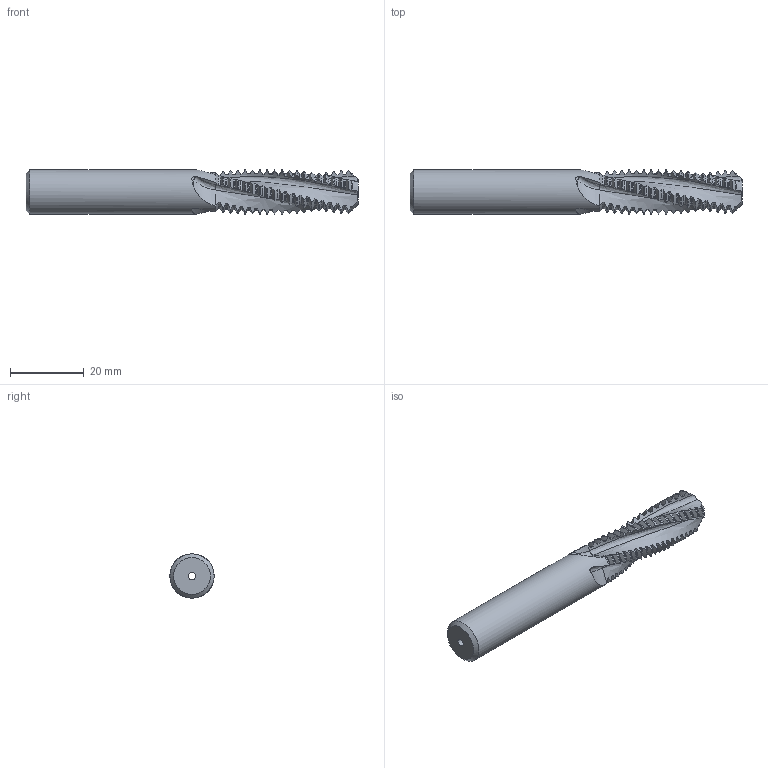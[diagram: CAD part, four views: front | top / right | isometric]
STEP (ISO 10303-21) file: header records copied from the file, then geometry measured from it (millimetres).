
FILE_DESCRIPTION(/* description */ (''),/* implementation_level */ '2;1');
FILE_NAME(/* name */ '00036254-STEP',/* time_stamp */ '2024-02-12T10:05:24+01:00',/* author */ (''),/* organization */ (''),/* preprocessor_version */ 'ST-DEVELOPER v16.5',/* originating_system */ 'HiCAD 2017 2201.0 Build 268',/* authorisation */ '');
FILE_SCHEMA (('AUTOMOTIVE_DESIGN { 1 0 10303 214 1 1 1 1 }'));
Products named in the file (2): Root; ROTATIONSTEIL_0
Assembly tree (1 placements, depth 2):
  Root
    ROTATIONSTEIL_0
Bounding box: 90 x 12 x 12 mm (x, y, z)
Volume: 7461.1 mm3; surface area: 4358.4 mm2
Topology: 1 solids, 1 shells, 485 faces, 1431 edges, 948 vertices
Faces by surface type: cone 153, cylinder 150, torus 148, bspline 32, plane 2
Full cylindrical faces by diameter (mm): 2 x1, 12 x1
Entity records: 56314 total; most frequent: CARTESIAN_POINT 31697, PRESENTATION_STYLE_ASSIGNMENT 2851, COLOUR_RGB 2851, DRAUGHTING_PRE_DEFINED_CURVE_FONT 2850, CURVE_STYLE 2850, OVER_RIDING_STYLED_ITEM 2850, ORIENTED_EDGE 2850, DIRECTION 1824
